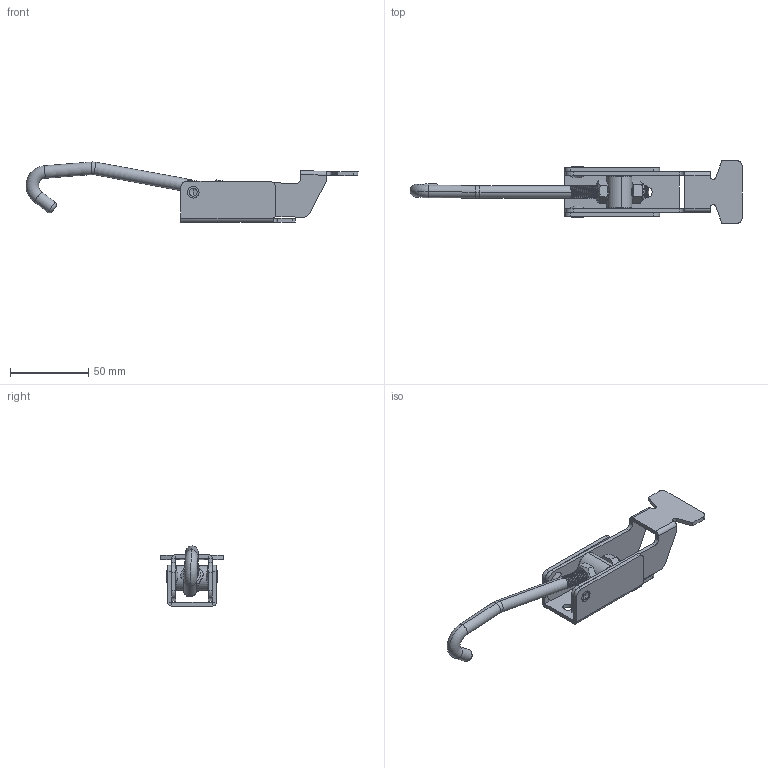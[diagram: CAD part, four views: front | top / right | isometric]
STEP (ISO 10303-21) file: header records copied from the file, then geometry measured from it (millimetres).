
FILE_DESCRIPTION (( 'STEP AP214' ), '1' );
FILE_NAME ('DST-40702.STEP', '2026-06-16T12:13:41', ( '' ), ( '' ), 'SwSTEP 2.0', 'SolidWorks 2024', '' );
FILE_SCHEMA (( 'AUTOMOTIVE_DESIGN' ));
Length unit declared in the file: millimetre
Products named in the file (8): DST-40702; DST-40702-02 HOOK; DST-40702-01 BASE; DST-40702-04 ROTOR; DST-40702-05; DST-40702-03 HANDLE; DST-40702_M8 LOCK Nut; DST-40702_M8 Nut
Assembly tree (8 placements, depth 2):
  DST-40702
    DST-40702-01 BASE
    DST-40702-03 HANDLE
    DST-40702-05  x2
    DST-40702-04 ROTOR
    DST-40702-02 HOOK
    DST-40702_M8 LOCK Nut
    DST-40702_M8 Nut
Bounding box: 211.76 x 39.8 x 38.3 mm (x, y, z)
Volume: 37783.8 mm3; surface area: 31021 mm2
Topology: 8 solids, 8 shells, 287 faces, 748 edges, 476 vertices
Faces by surface type: cylinder 164, plane 76, cone 27, bspline 12, torus 8
Entity records: 15281 total; most frequent: CARTESIAN_POINT 8813, ORIENTED_EDGE 1444, DIRECTION 1177, EDGE_CURVE 722, VERTEX_POINT 464, AXIS2_PLACEMENT_3D 434, LINE 309, VECTOR 309
